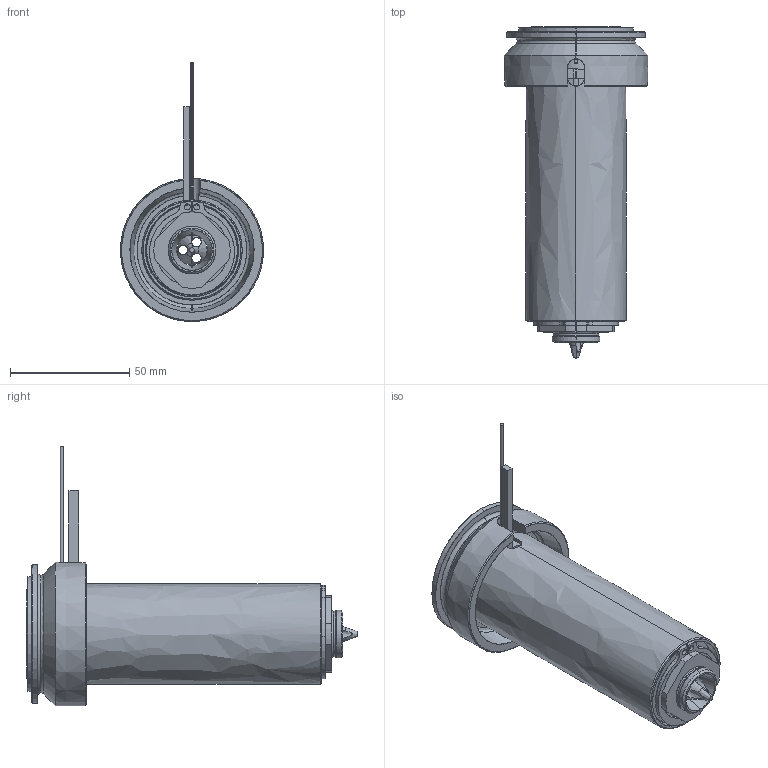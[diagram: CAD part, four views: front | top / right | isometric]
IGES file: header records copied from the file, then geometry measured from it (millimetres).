
Start section: SolidWorks IGES file using analytic representation for surfaces
Global section: file name: C:\Documents and Settings\ws-20\Desktop\TEM\UGEP6005-M-A-0 [Øf-1.9 ØC-17].IGS; native system: SolidWorks 2012; preprocessor: SolidWorks 2012; author: ws-20; date: 120427.094717; units: millimetre
Bounding box: 60 x 139.05 x 108.65 mm (x, y, z)
Surface area: 67008.6 mm2 (no closed solid volume)
Topology: 0 solids, 0 shells, 129 faces, 2315 edges, 2315 vertices
Faces by surface type: revolution 84, bspline 45
